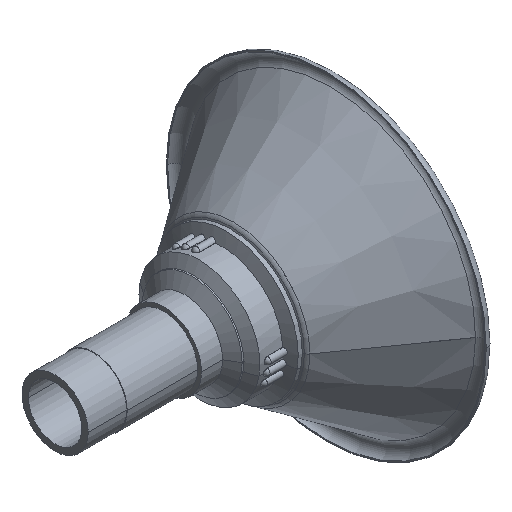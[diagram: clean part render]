
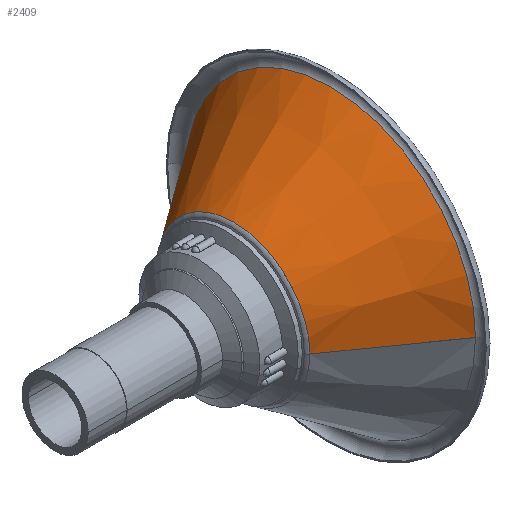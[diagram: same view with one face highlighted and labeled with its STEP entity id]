
A CAD part, isometric view. The second image highlights one B-rep face of the part: STEP entity #2409.
In plain terms, the highlighted conical face has half-angle 35.216 degrees and reference radius 86.331 mm.
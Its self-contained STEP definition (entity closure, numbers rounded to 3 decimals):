
#2063=CARTESIAN_POINT('',(0.,-4.614,0.));
#2064=DIRECTION('',(0.,1.,0.));
#2065=DIRECTION('',(-1.,0.,0.));
#2066=AXIS2_PLACEMENT_3D('',#2063,#2064,#2065);
#2071=DIRECTION('',(-0.577,-0.817,0.));
#2072=VECTOR('',#2071,92.836);
#2073=CARTESIAN_POINT('',(-59.563,-4.614,0.));
#2074=LINE('',#2073,#2072);
#2078=DIRECTION('',(0.577,-0.817,0.));
#2079=VECTOR('',#2078,92.836);
#2080=CARTESIAN_POINT('',(59.563,-4.614,0.));
#2081=LINE('',#2080,#2079);
#2117=CARTESIAN_POINT('',(0.,-80.46,0.));
#2118=DIRECTION('',(0.,1.,0.));
#2119=DIRECTION('',(-1.,0.,0.));
#2120=AXIS2_PLACEMENT_3D('',#2117,#2118,#2119);
#2297=CARTESIAN_POINT('',(-59.563,-4.614,0.));
#2298=CARTESIAN_POINT('',(-113.098,-80.46,
0.));
#2299=VERTEX_POINT('',#2297);
#2300=VERTEX_POINT('',#2298);
#2309=CARTESIAN_POINT('',(59.563,-4.614,0.));
#2310=CARTESIAN_POINT('',(113.098,-80.46,
0.));
#2311=VERTEX_POINT('',#2309);
#2312=VERTEX_POINT('',#2310);
#2395=CARTESIAN_POINT('',(0.,-42.537,0.));
#2396=DIRECTION('',(0.,-1.,0.));
#2397=DIRECTION('',(-1.,0.,0.));
#2398=AXIS2_PLACEMENT_3D('',#2395,#2396,#2397);
#2399=CONICAL_SURFACE('',#2398,86.331,35.216);
#2401=ORIENTED_EDGE('',*,*,#2400,.F.);
#2402=ORIENTED_EDGE('',*,*,#2390,.T.);
#2404=ORIENTED_EDGE('',*,*,#2403,.T.);
#2406=ORIENTED_EDGE('',*,*,#2405,.F.);
#2407=EDGE_LOOP('',(#2401,#2402,#2404,#2406));
#2408=FACE_OUTER_BOUND('',#2407,.F.);
#2067=CIRCLE('',#2066,59.563);
#2121=CIRCLE('',#2120,113.098);
#2390=EDGE_CURVE('',#2299,#2311,#2067,.T.);
#2400=EDGE_CURVE('',#2299,#2300,#2074,.T.);
#2403=EDGE_CURVE('',#2311,#2312,#2081,.T.);
#2405=EDGE_CURVE('',#2300,#2312,#2121,.T.);
#2409=ADVANCED_FACE('',(#2408),#2399,.T.);
